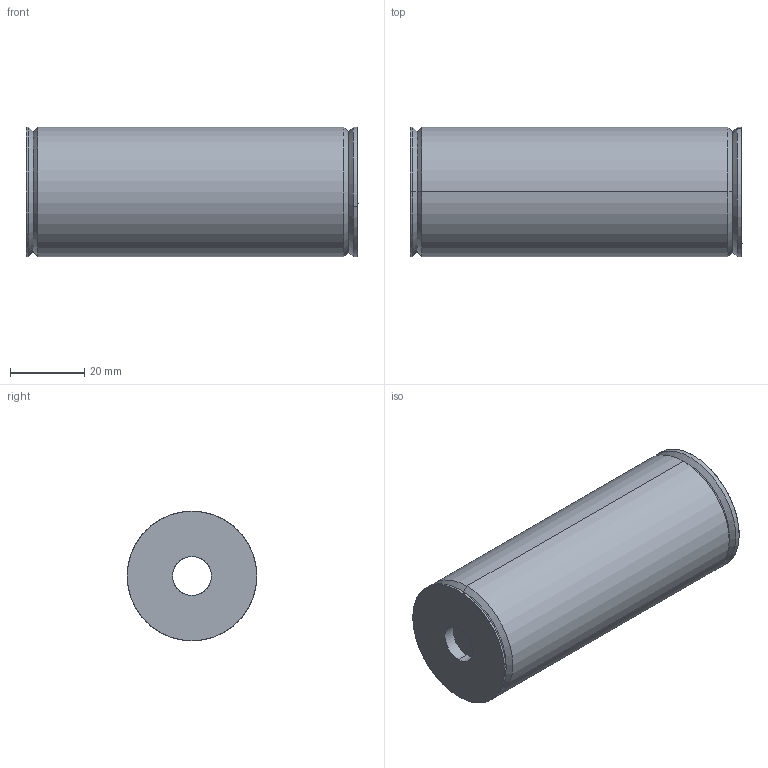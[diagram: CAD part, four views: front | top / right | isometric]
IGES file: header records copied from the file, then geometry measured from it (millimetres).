
Start section: SolidWorks IGES file using analytic representation for surfaces
Global section: file name: C:\Users\Shane\Desktop\Work\40 S&W\Stubby\Stubby.IGS; native system: SolidWorks 2011; preprocessor: SolidWorks 2011; author: Shane; date: 120430.155341; units: inch
Bounding box: 89.53 x 34.92 x 34.92 mm (x, y, z)
Surface area: 53942.2 mm2 (no closed solid volume)
Topology: 0 solids, 0 shells, 171 faces, 6432 edges, 6432 vertices
Faces by surface type: revolution 116, bspline 55
